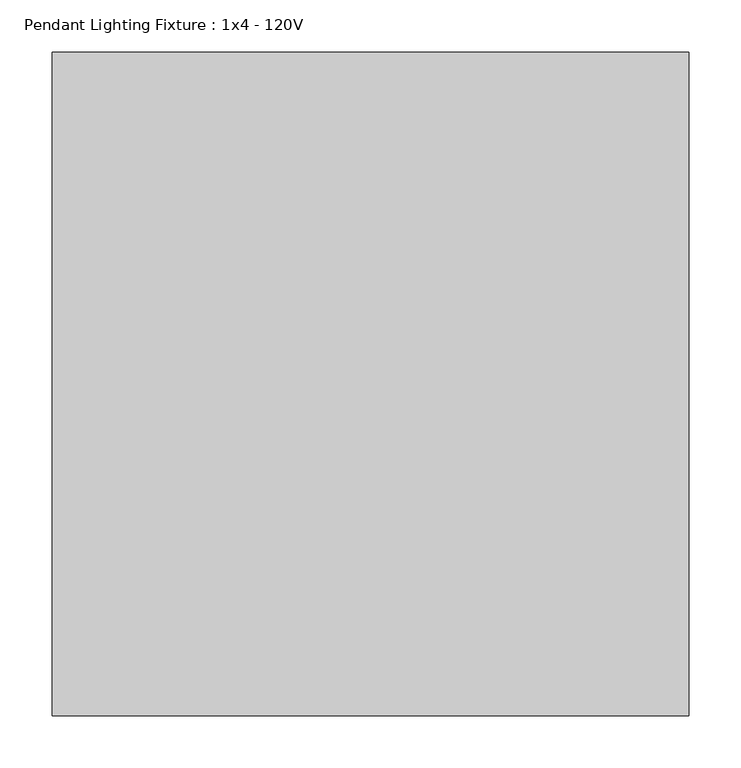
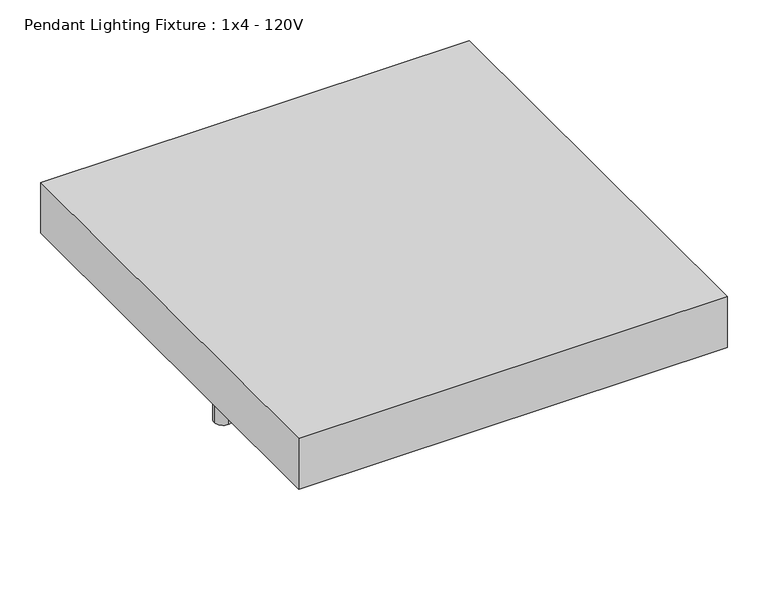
"""IFC4 building model written with IfcOpenShell, lengths in millimetres: light fixture geometry, Pendant Lighting Fixture : 1x4 - 120V."""

from ifc_helpers import new_model, si_unit, point, frame, frame_2d, origin, origin_with_axes, place, context, project, spatial, polyline, circle_curve, trimmed, segment, composite_curve, outline, extrude, source, transform, mapped, element, save


def pendant_lighting_fixture_1x4_120v_e23382af(model_context):
    return source(origin(), model_context, "Body", "SweptSolid", [
        extrude(outline(composite_curve([segment(trimmed(circle_curve(frame_2d((76.2, -101.6)), 12.7), [point((88.9, -101.6))], [point((76.2, -114.3))], False, "CARTESIAN"), True, "CONTINUOUS"), segment(trimmed(circle_curve(frame_2d((76.2, -101.6)), 12.7), [point((76.2, -114.3))], [point((63.5, -101.6))], False, "CARTESIAN"), True, "CONTINUOUS"), segment(trimmed(circle_curve(frame_2d((76.2, -101.6)), 12.7), [point((63.5, -101.6))], [point((76.2, -88.9))], False, "CARTESIAN"), True, "CONTINUOUS"), segment(trimmed(circle_curve(frame_2d((76.2, -101.6)), 12.7), [point((76.2, -88.9))], [point((88.9, -101.6))], False, "CARTESIAN"), True, "CONTINUOUS")], self_intersect=False)), origin_with_axes(), (0.0, 0.0, 1.0), 114.3),
        extrude(outline(composite_curve([segment(trimmed(circle_curve(frame_2d((558.8, -101.6)), 12.7), [point((571.5, -101.6))], [point((558.8, -114.3))], False, "CARTESIAN"), True, "CONTINUOUS"), segment(trimmed(circle_curve(frame_2d((558.8, -101.6)), 12.7), [point((558.8, -114.3))], [point((546.1, -101.6))], False, "CARTESIAN"), True, "CONTINUOUS"), segment(trimmed(circle_curve(frame_2d((558.8, -101.6)), 12.7), [point((546.1, -101.6))], [point((558.8, -88.9))], False, "CARTESIAN"), True, "CONTINUOUS"), segment(trimmed(circle_curve(frame_2d((558.8, -101.6)), 12.7), [point((558.8, -88.9))], [point((571.5, -101.6))], False, "CARTESIAN"), True, "CONTINUOUS")], self_intersect=False)), origin_with_axes(), (0.0, 0.0, 1.0), 114.3),
        extrude(outline(polyline([(609.6, 215.9), (609.6, -419.1), (0.0, -419.1), (0.0, 215.9), (609.6, 215.9)])), frame((0.0, 0.0, 114.3), z_axis=(0.0, 0.0, 1.0), x_axis=(1.0, 0.0, 0.0)), (0.0, 0.0, 1.0), 76.2),
    ])


if __name__ == "__main__":
    model = new_model("IFC4")
    model_context = context("Model", 3, world=origin())
    ifc_project = project(units=[si_unit("LENGTHUNIT", "METRE", prefix="MILLI")], contexts=[model_context])
    site = spatial("IfcSite", under=ifc_project)
    building = spatial("IfcBuilding", under=site)
    placement = place(None, origin())
    pendant_lighting_fixture_1x4_120v_shape = pendant_lighting_fixture_1x4_120v_e23382af(model_context)
    element("IfcLightFixture", 1, ObjectType="Pendant Lighting Fixture : 1x4 - 120V", at=placement, inside=building, context=model_context, shape_type="MappedRepresentation", body=[
        mapped(pendant_lighting_fixture_1x4_120v_shape, transform((0.0, 0.0, 0.0), x_axis=(1.0, 0.0, 0.0), y_axis=(0.0, 1.0, 0.0), z_axis=(0.0, 0.0, 1.0))),
    ])
    save(model, "model.ifc")
